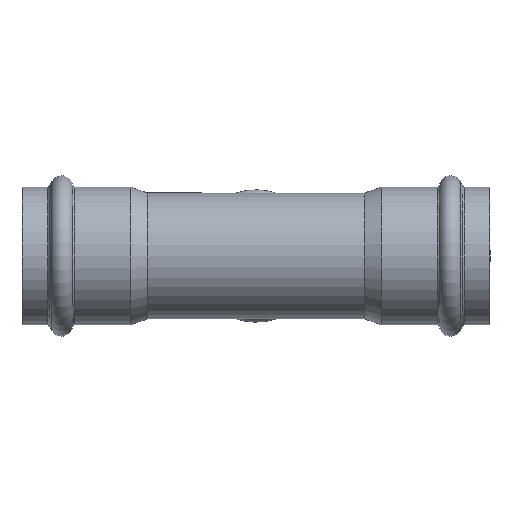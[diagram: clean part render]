
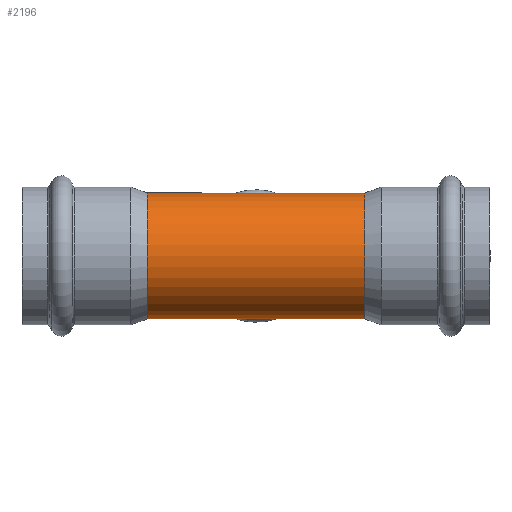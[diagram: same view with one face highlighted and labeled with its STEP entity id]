
A CAD part, front view. The second image highlights one B-rep face of the part: STEP entity #2196.
In plain terms, the highlighted cylindrical face has radius 17.5 mm (diameter 35 mm), a full revolution.
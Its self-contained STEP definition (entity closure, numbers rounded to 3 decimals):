
#1977=CARTESIAN_POINT('',(0.,10.243,-14.189));
#1978=VERTEX_POINT('',#1977);
#2066=CARTESIAN_POINT('',(0.,10.243,-14.189));
#2067=CARTESIAN_POINT('',(-0.445,10.243,-14.189));
#2068=CARTESIAN_POINT('',(-1.039,10.278,-14.164));
#2069=CARTESIAN_POINT('',(-1.99,10.406,-14.07));
#2070=CARTESIAN_POINT('',(-2.71,10.549,-13.964));
#2071=CARTESIAN_POINT('',(-3.836,10.849,-13.734));
#2072=CARTESIAN_POINT('',(-4.98,11.254,-13.408));
#2073=CARTESIAN_POINT('',(-5.99,11.7,-13.017));
#2074=CARTESIAN_POINT('',(-7.094,12.233,-12.522));
#2075=CARTESIAN_POINT('',(-8.141,12.802,-11.951));
#2076=CARTESIAN_POINT('',(-9.434,13.577,-11.058));
#2077=CARTESIAN_POINT('',(-10.526,14.278,-10.147));
#2078=CARTESIAN_POINT('',(-11.738,15.1,-8.896));
#2079=CARTESIAN_POINT('',(-12.557,15.683,-7.8));
#2080=CARTESIAN_POINT('',(-13.114,16.087,-6.894));
#2081=CARTESIAN_POINT('',(-13.422,16.313,-6.349));
#2082=CARTESIAN_POINT('',(-13.683,16.506,-5.823));
#2083=CARTESIAN_POINT('',(-14.166,16.865,-4.744));
#2084=CARTESIAN_POINT('',(-14.663,17.242,-3.257));
#2085=CARTESIAN_POINT('',(-15.015,17.512,-1.041));
#2086=CARTESIAN_POINT('',(-15.016,17.512,1.125));
#2087=CARTESIAN_POINT('',(-14.72,17.285,2.877));
#2088=CARTESIAN_POINT('',(-14.363,17.015,4.117));
#2089=CARTESIAN_POINT('',(-14.118,16.83,4.811));
#2090=CARTESIAN_POINT('',(-13.804,16.596,5.572));
#2091=CARTESIAN_POINT('',(-13.408,16.302,6.391));
#2092=CARTESIAN_POINT('',(-12.82,15.873,7.398));
#2093=CARTESIAN_POINT('',(-12.213,15.438,8.259));
#2094=CARTESIAN_POINT('',(-11.324,14.816,9.344));
#2095=CARTESIAN_POINT('',(-10.147,14.023,10.515));
#2096=CARTESIAN_POINT('',(-8.751,13.157,11.558));
#2097=CARTESIAN_POINT('',(-7.555,12.483,12.272));
#2098=CARTESIAN_POINT('',(-6.529,11.95,12.792));
#2099=CARTESIAN_POINT('',(-5.529,11.49,13.204));
#2100=CARTESIAN_POINT('',(-4.573,11.111,13.522));
#2101=CARTESIAN_POINT('',(-3.581,10.774,13.793));
#2102=CARTESIAN_POINT('',(-2.078,10.381,14.091));
#2103=CARTESIAN_POINT('',(-0.002,10.158,14.249));
#2104=CARTESIAN_POINT('',(1.879,10.359,14.107));
#2105=CARTESIAN_POINT('',(3.203,10.673,13.87));
#2106=CARTESIAN_POINT('',(3.943,10.895,13.696));
#2107=CARTESIAN_POINT('',(5.116,11.306,13.363));
#2108=CARTESIAN_POINT('',(6.183,11.779,12.953));
#2109=CARTESIAN_POINT('',(7.132,12.263,12.486));
#2110=CARTESIAN_POINT('',(7.676,12.553,12.195));
#2111=CARTESIAN_POINT('',(8.092,12.785,11.951));
#2112=CARTESIAN_POINT('',(8.977,13.297,11.39));
#2113=CARTESIAN_POINT('',(10.164,14.034,10.5));
#2114=CARTESIAN_POINT('',(11.329,14.82,9.337));
#2115=CARTESIAN_POINT('',(12.105,15.362,8.391));
#2116=CARTESIAN_POINT('',(12.522,15.659,7.821));
#2117=CARTESIAN_POINT('',(13.158,16.117,6.859));
#2118=CARTESIAN_POINT('',(13.919,16.679,5.434));
#2119=CARTESIAN_POINT('',(14.549,17.156,3.609));
#2120=CARTESIAN_POINT('',(14.843,17.38,2.149));
#2121=CARTESIAN_POINT('',(15.015,17.512,0.664));
#2122=CARTESIAN_POINT('',(15.016,17.512,-0.936));
#2123=CARTESIAN_POINT('',(14.77,17.324,-2.602));
#2124=CARTESIAN_POINT('',(14.406,17.047,-4.035));
#2125=CARTESIAN_POINT('',(13.835,16.617,-5.594));
#2126=CARTESIAN_POINT('',(13.065,16.048,-7.032));
#2127=CARTESIAN_POINT('',(12.265,15.475,-8.19));
#2128=CARTESIAN_POINT('',(11.165,14.704,-9.557));
#2129=CARTESIAN_POINT('',(9.748,13.759,-10.865));
#2130=CARTESIAN_POINT('',(8.02,12.732,-12.023));
#2131=CARTESIAN_POINT('',(6.382,11.86,-12.889));
#2132=CARTESIAN_POINT('',(4.851,11.191,-13.461));
#2133=CARTESIAN_POINT('',(3.211,10.663,-13.879));
#2134=CARTESIAN_POINT('',(1.781,10.337,-14.122));
#2135=CARTESIAN_POINT('',(0.594,10.243,-14.189));
#2136=CARTESIAN_POINT('',(0.,10.243,-14.189));
#2137=CARTESIAN_POINT('',(0.,10.243,-14.189));
#2138=CARTESIAN_POINT('',(0.,10.243,-14.189));
#2139=CARTESIAN_POINT('',(0.,10.243,-14.189));
#2140=B_SPLINE_CURVE_WITH_KNOTS('',3,(#2066,#2067,#2068,#2069,#2070,#2071,#2072,#2073,#2074,#2075,#2076,#2077,#2078,#2079,#2080,#2081,#2082,#2083,#2084,#2085,#2086,#2087,#2088,#2089,#2090,#2091,#2092,#2093,#2094,#2095,#2096,#2097,#2098,#2099,#2100,#2101,#2102,#2103,#2104,#2105,#2106,#2107,#2108,#2109,#2110,#2111,#2112,#2113,#2114,#2115,#2116,#2117,#2118,#2119,#2120,#2121,#2122,#2123,#2124,#2125,#2126,#2127,#2128,#2129,#2130,#2131,#2132,#2133,#2134,#2135,#2136,#2137,#2138,#2139),.UNSPECIFIED.,.T.,.U.,(4,1,1,1,1,1,1,1,1,1,1,1,1,1,1,1,1,1,1,1,1,1,1,1,1,1,1,1,1,1,1,1,1,1,1,1,1,1,1,1,1,1,1,1,1,1,1,1,1,1,1,1,1,1,1,1,1,1,1,1,1,1,1,1,1,1,1,1,3,4),(-9.044,-8.923,-8.883,-8.782,-8.721,-8.56,-8.439,-8.398,-8.197,-8.075,-7.914,-7.752,-7.537,-7.497,-7.429,-7.349,-7.322,-7.079,-6.891,-6.676,-6.46,-6.38,-6.299,-6.245,-6.137,-6.03,-5.895,-5.814,-5.599,-5.384,-5.276,-5.168,-5.034,-4.953,-4.872,-4.738,-4.522,-4.307,-4.226,-4.145,-4.092,-3.876,-3.809,-3.769,-3.688,-3.661,-3.445,-3.23,-3.149,-3.069,-3.015,-2.799,-2.584,-2.45,-2.369,-2.153,-1.992,-1.884,-1.723,-1.507,-1.4,-1.292,-0.969,-0.808,-0.646,-0.404,-0.323,-0.162,0.0,0.),.UNSPECIFIED.);
#2141=EDGE_CURVE('',#1978,#1978,#2140,.T.);
#2166=CARTESIAN_POINT('',(15.135,0.,0.0));
#2167=DIRECTION('',(1.0,0.,0.0));
#2168=DIRECTION('',(0.0,1.0,0.0));
#2169=AXIS2_PLACEMENT_3D('',#2166,#2167,#2168);
#2170=CYLINDRICAL_SURFACE('',#2169,17.5);
#2171=CARTESIAN_POINT('',(30.271,17.5,0.0));
#2172=VERTEX_POINT('',#2171);
#2173=CARTESIAN_POINT('',(30.271,0.,0.0));
#2174=DIRECTION('',(1.0,0.0,0.0));
#2175=DIRECTION('',(0.0,1.0,0.0));
#2176=AXIS2_PLACEMENT_3D('',#2173,#2174,#2175);
#2177=CIRCLE('',#2176,17.5);
#2178=EDGE_CURVE('',#2172,#2172,#2177,.T.);
#2179=ORIENTED_EDGE('',*,*,#2178,.F.);
#2180=EDGE_LOOP('',(#2179));
#2181=FACE_OUTER_BOUND('',#2180,.T.);
#2182=CARTESIAN_POINT('',(-30.271,17.5,0.0));
#2183=VERTEX_POINT('',#2182);
#2184=CARTESIAN_POINT('',(-30.271,0.,0.0));
#2185=DIRECTION('',(1.0,0.0,0.0));
#2186=DIRECTION('',(0.0,1.0,0.0));
#2187=AXIS2_PLACEMENT_3D('',#2184,#2185,#2186);
#2188=CIRCLE('',#2187,17.5);
#2189=EDGE_CURVE('',#2183,#2183,#2188,.T.);
#2190=ORIENTED_EDGE('',*,*,#2189,.T.);
#2191=EDGE_LOOP('',(#2190));
#2192=FACE_BOUND('',#2191,.T.);
#2193=ORIENTED_EDGE('',*,*,#2141,.F.);
#2194=EDGE_LOOP('',(#2193));
#2195=FACE_BOUND('',#2194,.T.);
#2196=ADVANCED_FACE('',(#2181,#2192,#2195),#2170,.T.);
